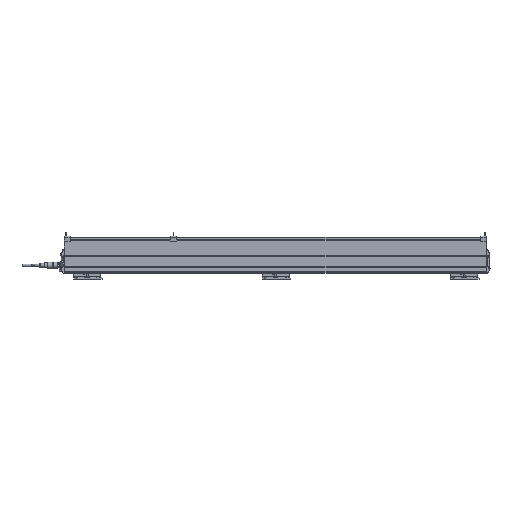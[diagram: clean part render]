
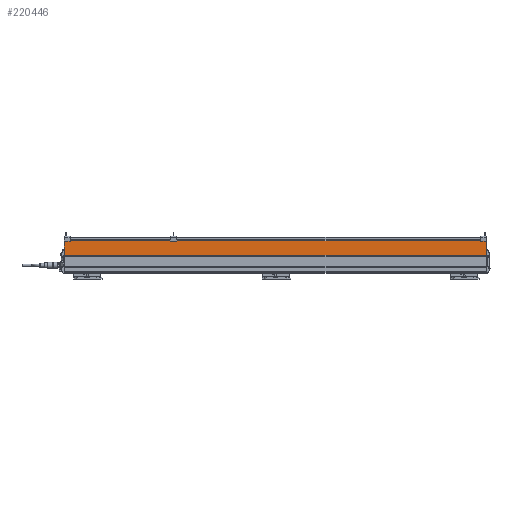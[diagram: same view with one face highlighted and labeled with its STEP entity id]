
A CAD part, front view. The second image highlights one B-rep face of the part: STEP entity #220446.
In plain terms, the highlighted planar face has unit normal (0, -1, 0) as drawn and (0, 1, 0) by its records, which use the part's own axes.
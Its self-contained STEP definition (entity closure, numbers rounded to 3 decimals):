
#75737=ORIENTED_EDGE('',*,*,#107795,.F.);
#75738=ORIENTED_EDGE('',*,*,#107760,.F.);
#75739=ORIENTED_EDGE('',*,*,#107794,.F.);
#75740=ORIENTED_EDGE('',*,*,#107699,.F.);
#92473=VECTOR('',#124377,1.);
#92500=VECTOR('',#124478,1.);
#92530=VECTOR('',#124572,1.);
#92531=VECTOR('',#124575,1.);
#97310=LINE('',#141753,#92473);
#97337=LINE('',#141876,#92500);
#97367=LINE('',#141942,#92530);
#97368=LINE('',#141944,#92531);
#102158=VERTEX_POINT('',#141750);
#102159=VERTEX_POINT('',#141752);
#102217=VERTEX_POINT('',#141873);
#102218=VERTEX_POINT('',#141875);
#107699=EDGE_CURVE('',#102158,#102159,#97310,.T.);
#107760=EDGE_CURVE('',#102217,#102218,#97337,.T.);
#107794=EDGE_CURVE('',#102159,#102217,#97367,.T.);
#107795=EDGE_CURVE('',#102218,#102158,#97368,.T.);
#116194=EDGE_LOOP('',(#75737,#75738,#75739,#75740));
#120186=FACE_BOUND('',#116194,.T.);
#124377=DIRECTION('',(36.287,0.,0.));
#124478=DIRECTION('',(-36.287,0.,0.));
#124572=DIRECTION('',(0.,0.,1035.));
#124573=DIRECTION('',(0.,1.,0.));
#124574=DIRECTION('',(1.,0.,0.));
#124575=DIRECTION('',(0.,0.,-1035.));
#141750=CARTESIAN_POINT('',(-29.322,15.,-910.));
#141752=CARTESIAN_POINT('',(6.965,15.,-910.));
#141753=CARTESIAN_POINT('',(-29.322,15.,-910.));
#141873=CARTESIAN_POINT('',(6.965,15.,125.));
#141875=CARTESIAN_POINT('',(-29.322,15.,125.));
#141876=CARTESIAN_POINT('',(6.965,15.,125.));
#141942=CARTESIAN_POINT('',(6.965,15.,-910.));
#141943=CARTESIAN_POINT('',(-29.322,15.,125.));
#141944=CARTESIAN_POINT('',(-29.322,15.,125.));
#212686=AXIS2_PLACEMENT_3D('',#141943,#124573,#124574);
#218835=PLANE('',#212686);
#220446=ADVANCED_FACE('',(#120186),#218835,.T.);
